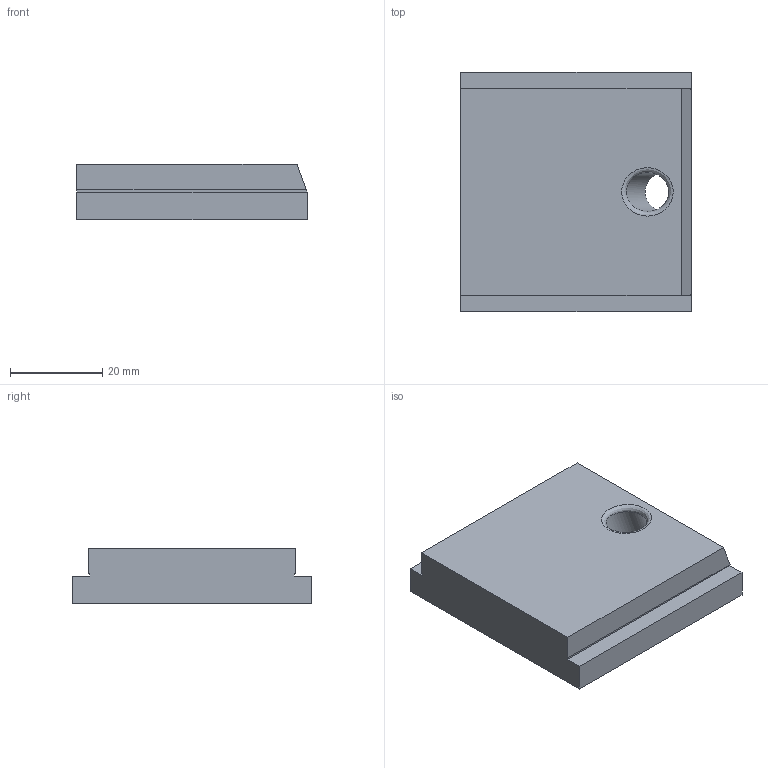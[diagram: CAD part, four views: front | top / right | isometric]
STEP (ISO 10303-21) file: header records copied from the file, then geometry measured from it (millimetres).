
FILE_DESCRIPTION (( 'STEP AP214' ), '1' );
FILE_NAME ('Schieber_-_H12 B45 L50.step', '2024-01-15T11:26:55', ( '' ), ( '' ), 'SwSTEP 2.0', 'SolidWorks 2020', '' );
FILE_SCHEMA (( 'AUTOMOTIVE_DESIGN' ));
Length unit declared in the file: millimetre
Products named in the file (1): Schieber_-_H12 B45 L50
Bounding box: 50 x 52 x 12 mm (x, y, z)
Volume: 28059.7 mm3; surface area: 7736.7 mm2
Topology: 1 solids, 1 shells, 204 faces, 546 edges, 363 vertices
Faces by surface type: plane 124, bspline 79, cylinder 1
Full cylindrical faces by diameter (mm): 8.5 x1
Entity records: 10412 total; most frequent: CARTESIAN_POINT 5829, ORIENTED_EDGE 1088, DIRECTION 637, EDGE_CURVE 544, LINE 385, VECTOR 385, VERTEX_POINT 363, EDGE_LOOP 227
